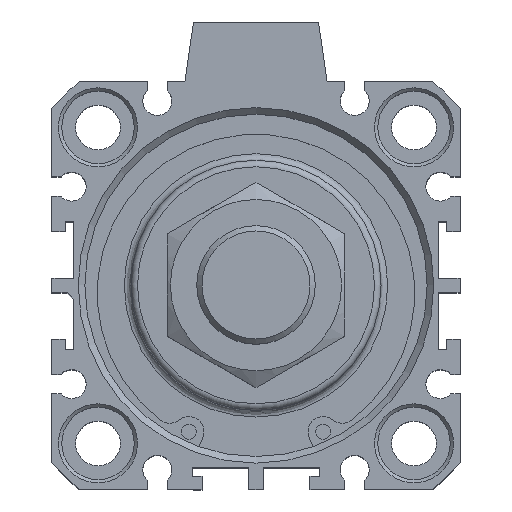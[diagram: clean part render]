
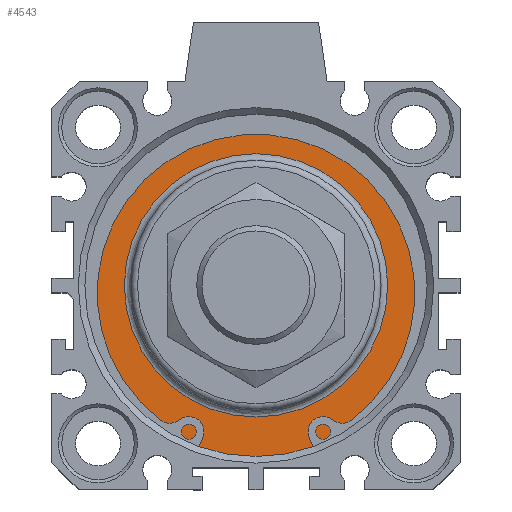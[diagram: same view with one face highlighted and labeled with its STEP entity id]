
A CAD part, top view. The second image highlights one B-rep face of the part: STEP entity #4543.
In plain terms, the highlighted planar face has unit normal (0, 0, 1).
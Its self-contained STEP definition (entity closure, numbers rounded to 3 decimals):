
#4492=CARTESIAN_POINT('',(-0.12,20.837,44.3));
#4493=VERTEX_POINT('',#4492);
#4494=CARTESIAN_POINT('',(-0.12,0.837,44.3));
#4495=DIRECTION('',(0.0,0.0,1.0));
#4496=DIRECTION('',(0.0,-1.0,0.0));
#4497=AXIS2_PLACEMENT_3D('',#4494,#4495,#4496);
#4498=CIRCLE('',#4497,20.0);
#4499=EDGE_CURVE('',#4493,#4493,#4498,.T.);
#4524=CARTESIAN_POINT('',(-0.12,23.337,44.3));
#4525=DIRECTION('',(0.0,0.0,1.0));
#4526=DIRECTION('',(1.0,0.0,0.0));
#4527=AXIS2_PLACEMENT_3D('',#4524,#4525,#4526);
#4528=PLANE('',#4527);
#4529=CARTESIAN_POINT('',(-0.12,26.837,44.3));
#4530=VERTEX_POINT('',#4529);
#4531=CARTESIAN_POINT('',(-0.12,0.837,44.3));
#4532=DIRECTION('',(0.0,0.0,-1.0));
#4533=DIRECTION('',(0.0,1.0,0.0));
#4534=AXIS2_PLACEMENT_3D('',#4531,#4532,#4533);
#4535=CIRCLE('',#4534,26.);
#4536=EDGE_CURVE('',#4530,#4530,#4535,.T.);
#4537=ORIENTED_EDGE('',*,*,#4536,.F.);
#4538=EDGE_LOOP('',(#4537));
#4539=FACE_OUTER_BOUND('',#4538,.T.);
#4540=ORIENTED_EDGE('',*,*,#4499,.F.);
#4541=EDGE_LOOP('',(#4540));
#4542=FACE_BOUND('',#4541,.T.);
#4543=ADVANCED_FACE('',(#4539,#4542),#4528,.T.);
